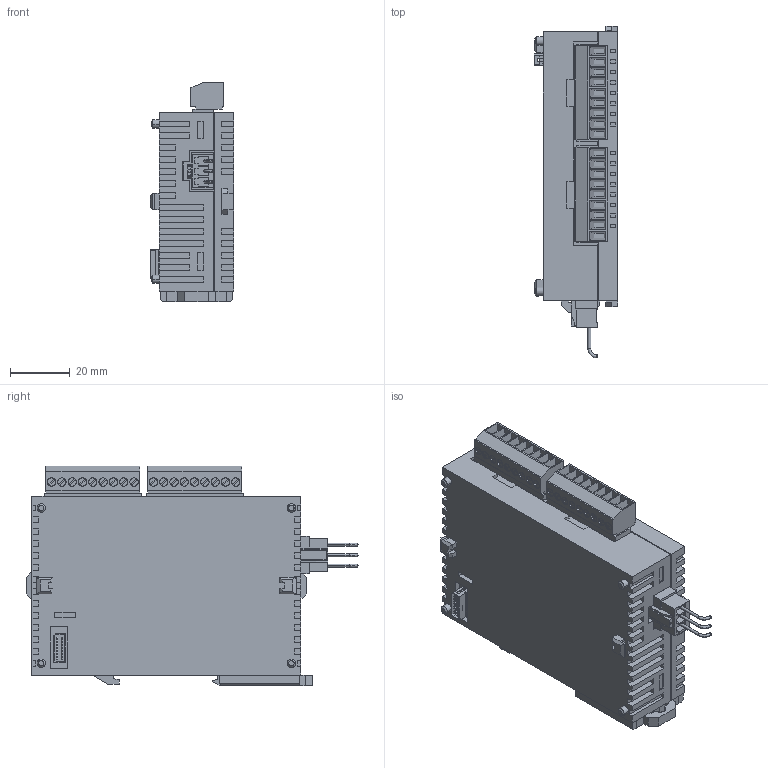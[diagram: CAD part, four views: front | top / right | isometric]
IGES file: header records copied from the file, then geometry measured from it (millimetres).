
Start section: SolidWorks IGES file using analytic representation for surfaces
Global section: file name: C:\catalog\FP0R_catalog\afp0re16rs\afp0re16rs.IGS; native system: SolidWorks 2010; preprocessor: SolidWorks 2010; author: ek1676; date: 130628.142022; units: millimetre
Bounding box: 28 x 111.2 x 73.45 mm (x, y, z)
Surface area: 27453.1 mm2 (no closed solid volume)
Topology: 0 solids, 0 shells, 1042 faces, 7234 edges, 7234 vertices
Faces by surface type: bspline 953, revolution 89
